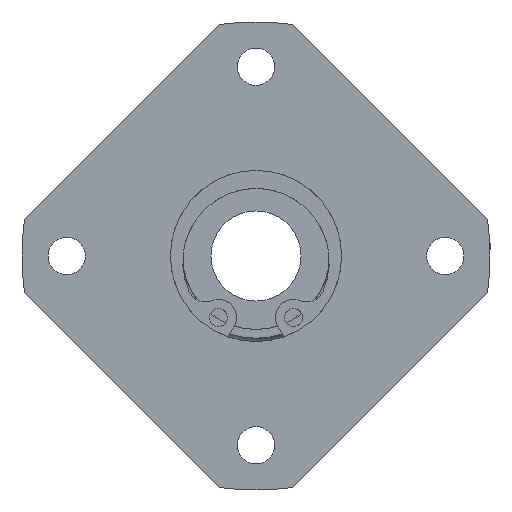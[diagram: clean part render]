
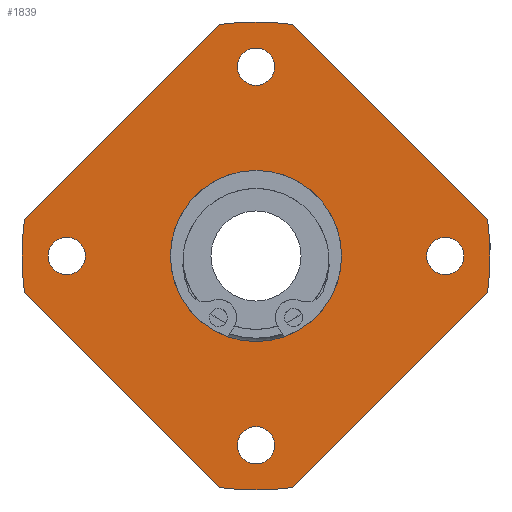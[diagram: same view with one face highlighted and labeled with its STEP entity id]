
A CAD part, left-side view. The second image highlights one B-rep face of the part: STEP entity #1839.
In plain terms, the highlighted planar face has unit normal (-1, 0, 0).
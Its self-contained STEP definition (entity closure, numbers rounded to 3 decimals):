
#60=CARTESIAN_POINT('',(0.0,21.0,-2.067));
#61=VERTEX_POINT('',#60);
#62=CARTESIAN_POINT('',(0.0,21.0,0.));
#63=DIRECTION('',(1.0,0.0,0.0));
#64=DIRECTION('',(0.0,0.0,-1.0));
#65=AXIS2_PLACEMENT_3D('',#62,#63,#64);
#66=CIRCLE('',#65,2.067);
#67=EDGE_CURVE('',#61,#61,#66,.T.);
#88=CARTESIAN_POINT('',(0.0,-2.067,-21.0));
#89=VERTEX_POINT('',#88);
#90=CARTESIAN_POINT('',(0.0,0.,-21.0));
#91=DIRECTION('',(1.0,0.0,0.0));
#92=DIRECTION('',(0.0,-1.0,0.0));
#93=AXIS2_PLACEMENT_3D('',#90,#91,#92);
#94=CIRCLE('',#93,2.067);
#95=EDGE_CURVE('',#89,#89,#94,.T.);
#116=CARTESIAN_POINT('',(0.0,-21.0,2.067));
#117=VERTEX_POINT('',#116);
#118=CARTESIAN_POINT('',(0.0,-21.0,0.));
#119=DIRECTION('',(1.0,0.0,0.0));
#120=DIRECTION('',(0.0,0.0,1.0));
#121=AXIS2_PLACEMENT_3D('',#118,#119,#120);
#122=CIRCLE('',#121,2.067);
#123=EDGE_CURVE('',#117,#117,#122,.T.);
#144=CARTESIAN_POINT('',(0.0,2.067,21.0));
#145=VERTEX_POINT('',#144);
#146=CARTESIAN_POINT('',(0.0,0.0,21.0));
#147=DIRECTION('',(1.0,0.0,0.0));
#148=DIRECTION('',(0.0,1.0,0.0));
#149=AXIS2_PLACEMENT_3D('',#146,#147,#148);
#150=CIRCLE('',#149,2.067);
#151=EDGE_CURVE('',#145,#145,#150,.T.);
#171=CARTESIAN_POINT('',(0.0,25.689,4.01));
#172=VERTEX_POINT('',#171);
#179=CARTESIAN_POINT('',(0.0,4.01,25.689));
#180=VERTEX_POINT('',#179);
#181=CARTESIAN_POINT('',(0.0,4.01,25.689));
#182=DIRECTION('',(0.0,0.707,-0.707));
#183=VECTOR('',#182,30.659);
#184=LINE('',#181,#183);
#185=EDGE_CURVE('',#180,#172,#184,.T.);
#211=CARTESIAN_POINT('',(0.0,-25.689,-4.01));
#212=VERTEX_POINT('',#211);
#219=CARTESIAN_POINT('',(0.0,-4.01,-25.689));
#220=VERTEX_POINT('',#219);
#221=CARTESIAN_POINT('',(0.0,-4.01,-25.689));
#222=DIRECTION('',(0.0,-0.707,0.707));
#223=VECTOR('',#222,30.659);
#224=LINE('',#221,#223);
#225=EDGE_CURVE('',#220,#212,#224,.T.);
#251=CARTESIAN_POINT('',(0.0,4.01,-25.689));
#252=VERTEX_POINT('',#251);
#259=CARTESIAN_POINT('',(0.0,25.689,-4.01));
#260=VERTEX_POINT('',#259);
#261=CARTESIAN_POINT('',(0.0,25.689,-4.01));
#262=DIRECTION('',(0.0,-0.707,-0.707));
#263=VECTOR('',#262,30.659);
#264=LINE('',#261,#263);
#265=EDGE_CURVE('',#260,#252,#264,.T.);
#291=CARTESIAN_POINT('',(0.0,-4.01,25.689));
#292=VERTEX_POINT('',#291);
#299=CARTESIAN_POINT('',(0.0,-25.689,4.01));
#300=VERTEX_POINT('',#299);
#301=CARTESIAN_POINT('',(0.0,-25.689,4.01));
#302=DIRECTION('',(0.0,0.707,0.707));
#303=VECTOR('',#302,30.659);
#304=LINE('',#301,#303);
#305=EDGE_CURVE('',#300,#292,#304,.T.);
#322=CARTESIAN_POINT('',(0.0,0.0,0.0));
#323=DIRECTION('',(-1.0,0.0,0.0));
#324=DIRECTION('',(0.0,0.0,1.0));
#325=AXIS2_PLACEMENT_3D('',#322,#323,#324);
#326=CIRCLE('',#325,26.0);
#327=EDGE_CURVE('',#252,#220,#326,.T.);
#354=CARTESIAN_POINT('',(0.0,0.0,0.0));
#355=DIRECTION('',(-1.0,0.0,0.0));
#356=DIRECTION('',(0.0,0.0,1.0));
#357=AXIS2_PLACEMENT_3D('',#354,#355,#356);
#358=CIRCLE('',#357,26.0);
#359=EDGE_CURVE('',#212,#300,#358,.T.);
#370=CARTESIAN_POINT('',(0.0,0.0,0.0));
#371=DIRECTION('',(-1.0,0.0,0.0));
#372=DIRECTION('',(0.0,0.0,1.0));
#373=AXIS2_PLACEMENT_3D('',#370,#371,#372);
#374=CIRCLE('',#373,26.0);
#375=EDGE_CURVE('',#292,#180,#374,.T.);
#402=CARTESIAN_POINT('',(0.0,0.0,0.0));
#403=DIRECTION('',(-1.0,0.0,0.0));
#404=DIRECTION('',(0.0,0.0,1.0));
#405=AXIS2_PLACEMENT_3D('',#402,#403,#404);
#406=CIRCLE('',#405,26.0);
#407=EDGE_CURVE('',#172,#260,#406,.T.);
#1801=CARTESIAN_POINT('',(0.0,0.0,17.75));
#1802=DIRECTION('',(-1.0,0.0,0.0));
#1803=DIRECTION('',(0.0,0.0,1.0));
#1804=AXIS2_PLACEMENT_3D('',#1801,#1802,#1803);
#1805=PLANE('',#1804);
#1806=ORIENTED_EDGE('',*,*,#185,.T.);
#1807=ORIENTED_EDGE('',*,*,#407,.T.);
#1808=ORIENTED_EDGE('',*,*,#265,.T.);
#1809=ORIENTED_EDGE('',*,*,#327,.T.);
#1810=ORIENTED_EDGE('',*,*,#225,.T.);
#1811=ORIENTED_EDGE('',*,*,#359,.T.);
#1812=ORIENTED_EDGE('',*,*,#305,.T.);
#1813=ORIENTED_EDGE('',*,*,#375,.T.);
#1814=EDGE_LOOP('',(#1806,#1807,#1808,#1809,#1810,#1811,#1812,#1813));
#1815=FACE_OUTER_BOUND('',#1814,.T.);
#1816=ORIENTED_EDGE('',*,*,#67,.T.);
#1817=EDGE_LOOP('',(#1816));
#1818=FACE_BOUND('',#1817,.T.);
#1819=ORIENTED_EDGE('',*,*,#95,.T.);
#1820=EDGE_LOOP('',(#1819));
#1821=FACE_BOUND('',#1820,.T.);
#1822=ORIENTED_EDGE('',*,*,#123,.T.);
#1823=EDGE_LOOP('',(#1822));
#1824=FACE_BOUND('',#1823,.T.);
#1825=ORIENTED_EDGE('',*,*,#151,.T.);
#1826=EDGE_LOOP('',(#1825));
#1827=FACE_BOUND('',#1826,.T.);
#1828=CARTESIAN_POINT('',(0.0,0.0,9.5));
#1829=VERTEX_POINT('',#1828);
#1830=CARTESIAN_POINT('',(0.0,0.0,0.0));
#1831=DIRECTION('',(-1.0,0.0,0.0));
#1832=DIRECTION('',(0.0,0.0,1.0));
#1833=AXIS2_PLACEMENT_3D('',#1830,#1831,#1832);
#1834=CIRCLE('',#1833,9.5);
#1835=EDGE_CURVE('',#1829,#1829,#1834,.T.);
#1836=ORIENTED_EDGE('',*,*,#1835,.F.);
#1837=EDGE_LOOP('',(#1836));
#1838=FACE_BOUND('',#1837,.T.);
#1839=ADVANCED_FACE('',(#1815,#1818,#1821,#1824,#1827,#1838),#1805,.T.);
